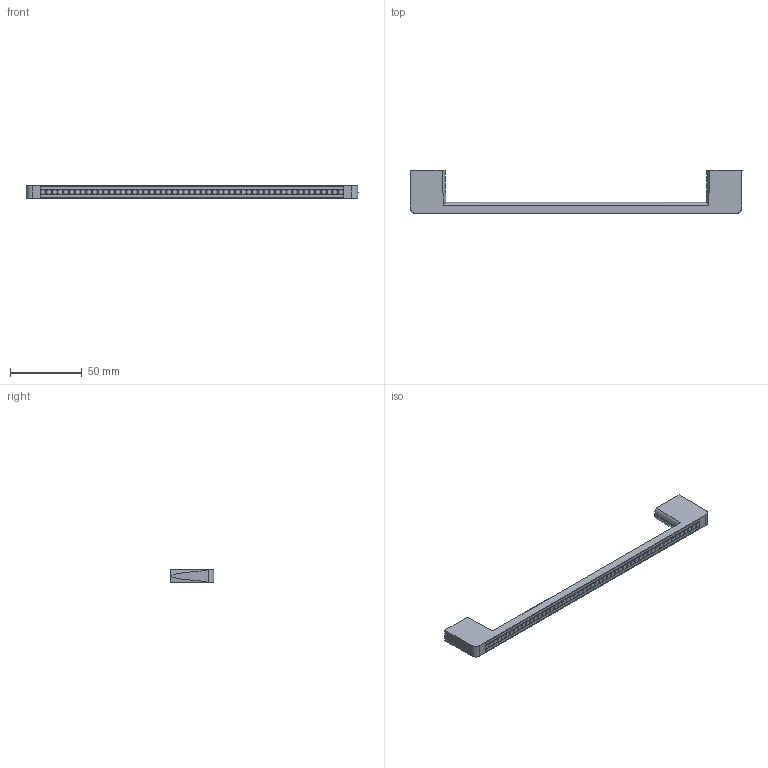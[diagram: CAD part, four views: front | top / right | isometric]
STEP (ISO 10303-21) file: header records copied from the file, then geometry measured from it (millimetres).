
FILE_DESCRIPTION( ( '' ), '1' );
FILE_NAME( 'D:/1.AUTOCAD EXPORT/Group 10/sheet_10_1/9113680.stp', '2013-10-18T05:45:13', ( '' ), ( '' ), ' ', ' ', ' ' );
FILE_SCHEMA( ( 'automotive_design' ) );
Length unit declared in the file: millimetre
Products named in the file (1): 1
Bounding box: 232 x 30.4 x 9 mm (x, y, z)
Volume: 24198.4 mm3; surface area: 12785.6 mm2
Topology: 1 solids, 1 shells, 831 faces, 2728 edges, 1693 vertices
Faces by surface type: cone 320, plane 283, torus 217, cylinder 11
Entity records: 57930 total; most frequent: CARTESIAN_POINT 5939, ORIENTED_EDGE 5244, DIRECTION 5230, STYLED_ITEM 5147, PRESENTATION_STYLE_ASSIGNMENT 5147, COLOUR_RGB 5147, EDGE_CURVE 2622, CURVE_STYLE 2622
